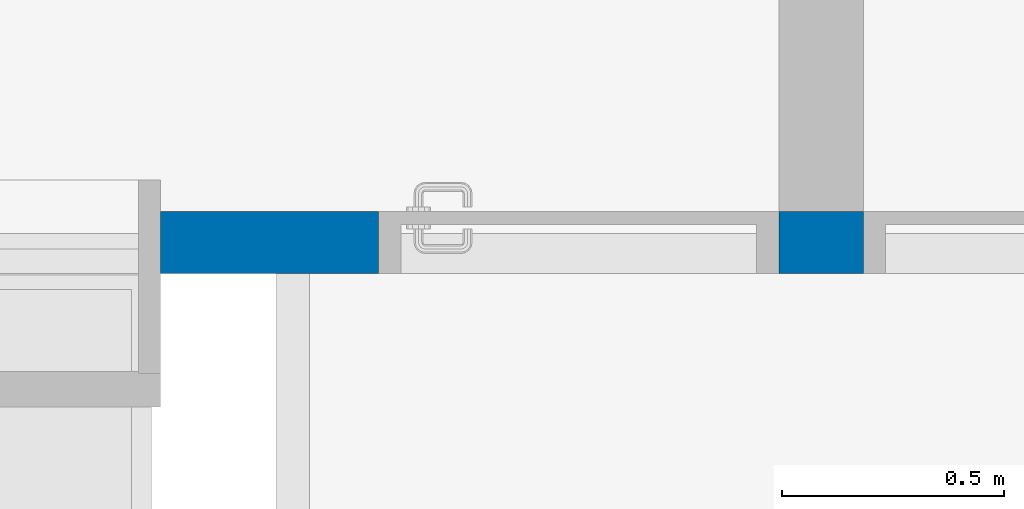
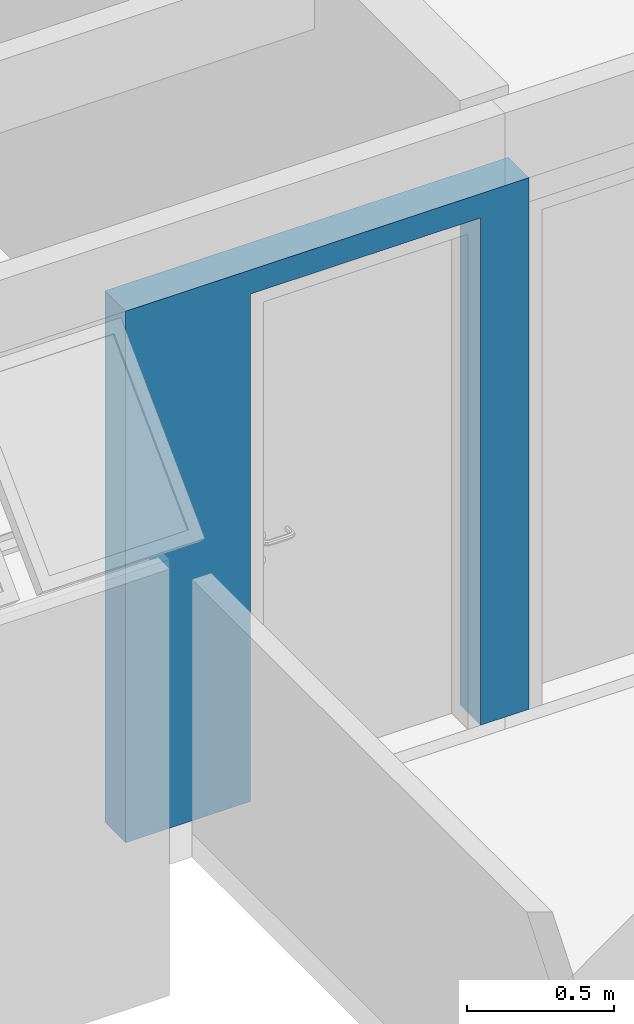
# One storey, part 31 of 41: 1 wall, 1 opening.
"""IFC4 building model written with IfcOpenShell, lengths in millimetres."""

from ifc_helpers import new_model, entity, si_unit, converted_unit, derived_unit, direction, frame, origin_with_axes, origin_2d_with_axis, place, context, subcontext, project, spatial, line, indexed_curve, rectangle, outline, extrude, material, layer, layer_set, layer_usage, type_object, element, save


model = new_model("IFC4")

# Units and contexts
model_context = context("Model", 3, precision=0.01, world=origin_with_axes(), true_north=direction((0.0, 1.0)))
body_context = subcontext(model_context, "Body", "Model", "MODEL_VIEW")
ifc_project = project(units=[si_unit("LENGTHUNIT", "METRE", prefix="MILLI"), si_unit("AREAUNIT", "SQUARE_METRE"), si_unit("VOLUMEUNIT", "CUBIC_METRE"), converted_unit("PLANEANGLEUNIT", "DEGREE", entity("IfcPlaneAngleMeasure", 0.0174532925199), si_unit("PLANEANGLEUNIT", "RADIAN"), dimensions=[0, 0, 0, 0, 0, 0, 0]), converted_unit("TIMEUNIT", "Year", entity("IfcTimeMeasure", 31556926.0), si_unit("TIMEUNIT", "SECOND"), dimensions=[0, 0, 1, 0, 0, 0, 0]), si_unit("MASSUNIT", "GRAM", prefix="KILO"), si_unit("THERMODYNAMICTEMPERATUREUNIT", "DEGREE_CELSIUS"), si_unit("LUMINOUSINTENSITYUNIT", "LUMEN"), si_unit("ENERGYUNIT", "JOULE", prefix="MEGA"), derived_unit("THERMALCONDUCTANCEUNIT", [(si_unit("POWERUNIT", "WATT"), 1), (si_unit("LENGTHUNIT", "METRE"), -1), (si_unit("THERMODYNAMICTEMPERATUREUNIT", "KELVIN"), -1)]), derived_unit("SPECIFICHEATCAPACITYUNIT", [(si_unit("ENERGYUNIT", "JOULE"), 1), (si_unit("MASSUNIT", "GRAM", prefix="KILO"), -1), (si_unit("THERMODYNAMICTEMPERATUREUNIT", "KELVIN"), -1)]), derived_unit("MASSDENSITYUNIT", [(si_unit("MASSUNIT", "GRAM", prefix="KILO"), 1), (si_unit("VOLUMEUNIT", "CUBIC_METRE"), -1)])], contexts=[model_context])

# Site, building, storey
site_placement = place(None, origin_with_axes())
site = spatial("IfcSite", under=ifc_project, at=site_placement, Name="Local", CompositionType="ELEMENT")
building_placement = place(site_placement, origin_with_axes())
building = spatial("IfcBuilding", under=site, at=building_placement, Name="Construção", CompositionType="ELEMENT")
storey_placement = place(building_placement, frame((0.0, 0.0, 2650.0), z_axis=(0.0, 0.0, 1.0), x_axis=(1.0, 0.0, 0.0)))
storey = spatial("IfcBuildingStorey", under=building, at=storey_placement, Name="Segundo Pavimento", CompositionType="ELEMENT", Elevation=2650.0)

# Wall, opening
ifc_material = material(Name="GENÉRICO - VEDAÇÃO EXTERNA")
ifc_layer = layer(ifc_material, 140.0, ventilated="UNKNOWN", Name="GENÉRICO - VEDAÇÃO EXTERNA")
ifc_layer_set = layer_set([ifc_layer], Name="GENÉRICO - VEDAÇÃO EXTERNA 140")
ifc_layer_usage = layer_usage(ifc_layer_set, "AXIS2", "POSITIVE", 0.0)
wall_type = type_object("IfcWallType", Name="GENÉRICO - VEDAÇÃO EXTERNA 140", PredefinedType="NOTDEFINED")
wall_placement = place(storey_placement, frame((7480.0, 18035.0, 0.0), z_axis=(0.0, 0.0, 1.0), x_axis=(-1.0, 0.0, 0.0)))
wall = element("IfcWall", 1, at=wall_placement, inside=storey, type_object=wall_type, material=ifc_layer_usage, Name="APTO7-PAREDE-004", PredefinedType="NOTDEFINED", context=body_context, shape_type="SweptSolid", body=[
    extrude(outline(indexed_curve([(0.0, 0.0), (1580.0, 0.0), (1580.0, 140.0), (0.0, 140.0)], segments=[line(1, 2, 3, 4, 1)])), origin_with_axes(), (0.0, 0.0, 1.0), 2200.0),
])
opening_placement = place(wall_placement, frame((640.0, 0.0, 0.0), z_axis=(0.0, 0.0, 1.0), x_axis=(1.0, 0.0, 0.0)))
element("IfcOpeningElement", 2, at=opening_placement, cuts=wall, Name="APTO7-PORTA-004", context=body_context, shape_type="SweptSolid", body=[
    extrude(rectangle(XDim=900.0, YDim=2100.0, at=origin_2d_with_axis()), frame((0.0, -140.0, 1050.0), z_axis=(0.0, 1.0, 0.0), x_axis=(-1.0, 0.0, 0.0)), (0.0, 0.0, 1.0), 420.0),
])

save(model, "model.ifc")
